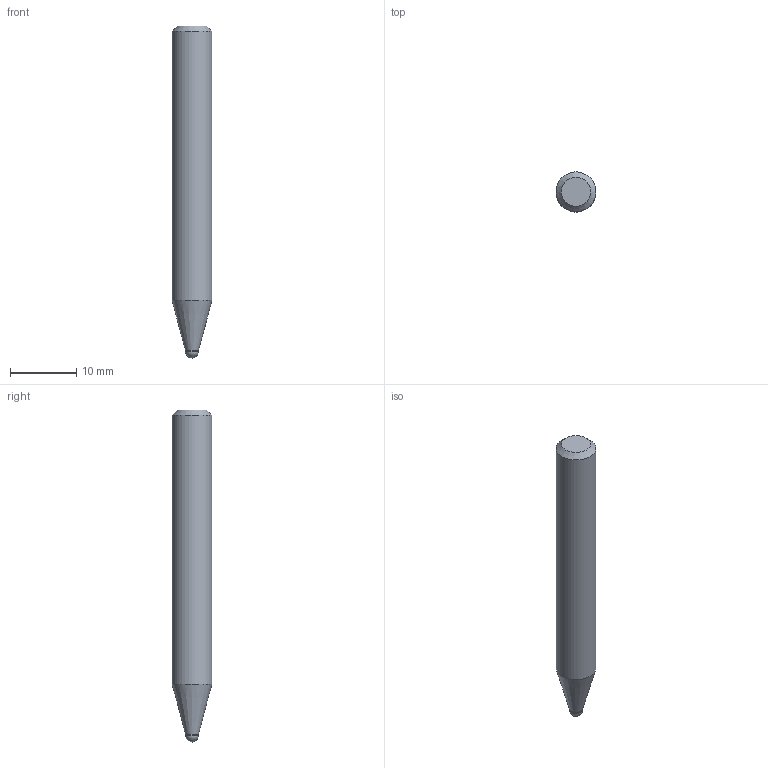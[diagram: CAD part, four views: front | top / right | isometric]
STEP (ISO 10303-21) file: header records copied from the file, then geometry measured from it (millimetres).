
FILE_DESCRIPTION((''),'2;1');
FILE_NAME('C:\Users\nsx150\AppData\Local\Temp\Mastercam 2021\8KJEN3TMUH\TEMP.step','2021-05-21T11:23:43',(''),(''),'STEP Write','Mastercam 2021 ... CNC Software, Inc.','');
FILE_SCHEMA(('AUTOMOTIVE_DESIGN'));
Length unit declared in the file: millimetre
Products named in the file (1): None
Bounding box: 6 x 6 x 50 mm (x, y, z)
Volume: 1267.6 mm3; surface area: 908.7 mm2
Topology: 2 solids, 2 shells, 8 faces, 12 edges, 7 vertices
Faces by surface type: plane 3, cylinder 2, cone 2, sphere 1
Full cylindrical faces by diameter (mm): 2 x1, 6 x1
Entity records: 190 total; most frequent: DIRECTION 32, CARTESIAN_POINT 22, AXIS2_PLACEMENT_3D 16, ORIENTED_EDGE 12, EDGE_LOOP 12, STYLED_ITEM 11, ADVANCED_FACE 8, VERTEX_POINT 6
